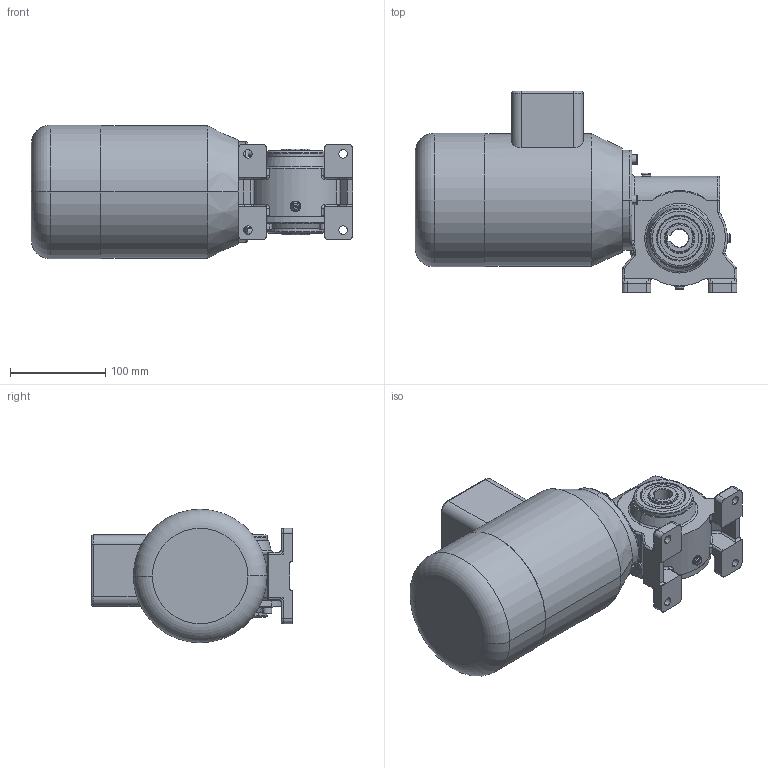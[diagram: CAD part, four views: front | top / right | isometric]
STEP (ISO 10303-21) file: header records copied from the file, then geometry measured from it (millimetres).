
FILE_DESCRIPTION (( 'STEP AP214' ), '1' );
FILE_NAME ('SN9SHH_370W_Drehstrom-Motor_D.STEP', '2021-05-10T10:41:51', ( '' ), ( '' ), 'SwSTEP 2.0', 'SolidWorks 2019', '' );
FILE_SCHEMA (( 'AUTOMOTIVE_DESIGN' ));
Length unit declared in the file: millimetre
Products named in the file (1): SN9SHH_370W_Drehstrom-Motor_D
Bounding box: 337 x 211 x 140 mm (x, y, z)
Surface area: 213652.8 mm2 (no closed solid volume)
Topology: 0 solids, 31 shells, 441 faces, 1183 edges, 749 vertices
Faces by surface type: cylinder 157, plane 146, torus 69, cone 47, bspline 20, sphere 2
Entity records: 20340 total; most frequent: CARTESIAN_POINT 4543, DIRECTION 2444, ORIENTED_EDGE 2074, EDGE_CURVE 1157, AXIS2_PLACEMENT_3D 984, VERTEX_POINT 747, CIRCLE 562, EDGE_LOOP 507
